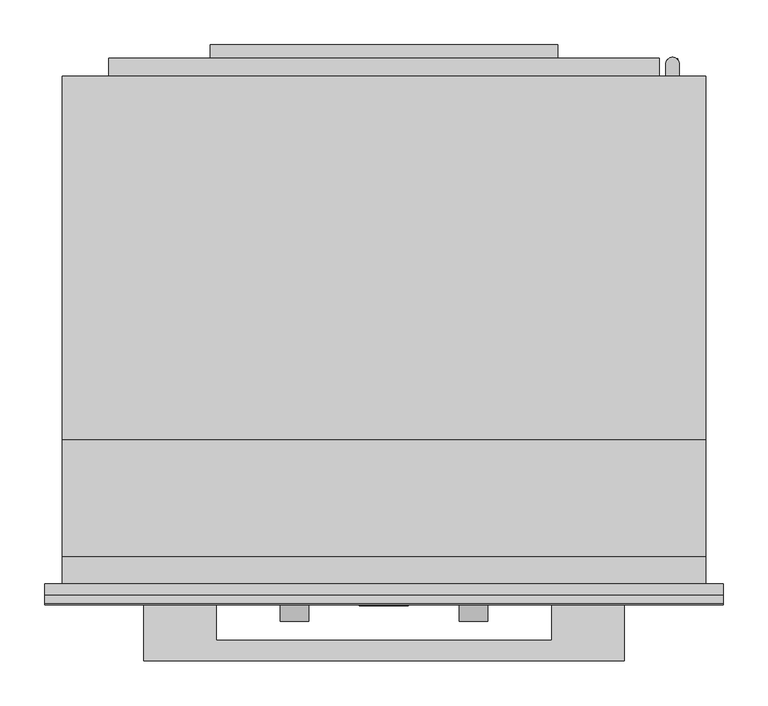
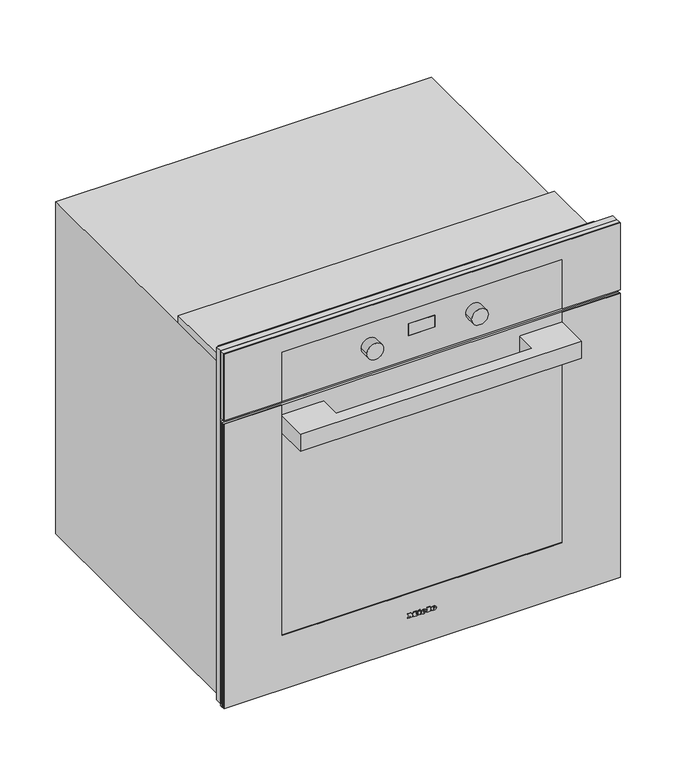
"""IFC4 building model written with IfcOpenShell, lengths in millimetres: proxy geometry, 11805320_USA_H2780BP_EDST-CLST : 22278045_USA_11805320_H2780BP_EDST-CLST."""

import ifcopenshell
import ifcopenshell.guid

model = None  # the IFC model being written
_history = None  # IfcOwnerHistory: only IFC2X3 demands one
_inside = {}  # id of a spatial element -> (the spatial element, [elements in it])
_under = {}  # id of a project, library or spatial element -> (it, [spatial elements below it])
_declared = {}  # id of a project -> (the project, [libraries it declares])
_typed = {}  # id of a type object -> (the type object, [elements of that type])
_made_of = {}  # id of a material, layer set ... -> (it, [elements and type objects made of it])


def new_model(schema):
    """Start an empty IFC model of exactly this schema.

    Asked for "IFC4X3", IfcOpenShell would pick the latest addendum, in which some entities
    have other attributes; the version numbers below select the first issue.
    IFC2X3 requires an IfcOwnerHistory on every rooted entity: one is made here for all.
    """
    global model, _history
    if schema == "IFC4X3":
        model = ifcopenshell.file(schema_version=(4, 3, 0, 0))
    else:
        model = ifcopenshell.file(schema=schema)
    _inside.clear()
    _under.clear()
    _declared.clear()
    _typed.clear()
    _made_of.clear()
    _history = None
    if model.schema == "IFC2X3":
        org = make("IfcOrganization", Name="unknown")
        user = make(
            "IfcPersonAndOrganization",
            ThePerson=make("IfcPerson", FamilyName="unknown"),
            TheOrganization=org,
        )
        app = make(
            "IfcApplication",
            ApplicationDeveloper=org,
            Version="unknown",
            ApplicationFullName="unknown",
            ApplicationIdentifier="unknown",
        )
        _history = make(
            "IfcOwnerHistory",
            OwningUser=user,
            OwningApplication=app,
            ChangeAction="ADDED",
            CreationDate=0,
        )
    return model


def make(cls, **values):
    """One entity of the class cls with the attributes given. An attribute that is None is left unset."""
    return model.create_entity(
        cls, **{name: value for name, value in values.items() if value is not None}
    )


def rooted(cls, **values):
    """An entity with a GlobalId (a new one), such as an element, a storey or a relation."""
    return make(cls, GlobalId=ifcopenshell.guid.new(), OwnerHistory=_history, **values)


def si_unit(unit_type, name, prefix=None):
    """IfcSIUnit, for example si_unit("LENGTHUNIT", "METRE", prefix="MILLI")."""
    return make("IfcSIUnit", UnitType=unit_type, Prefix=prefix, Name=name)


def assignment(units):
    """IfcUnitAssignment: the units of a project."""
    return None if units is None else make("IfcUnitAssignment", Units=units)


def point(xyz):
    """IfcCartesianPoint."""
    return None if xyz is None else make("IfcCartesianPoint", Coordinates=xyz)


def direction(xyz):
    """IfcDirection."""
    return None if xyz is None else make("IfcDirection", DirectionRatios=xyz)


def frame(location, z_axis=None, x_axis=None):
    """IfcAxis2Placement3D, a coordinate frame: its origin and axes. An axis left out is left unset."""
    return make(
        "IfcAxis2Placement3D",
        Location=point(location),
        Axis=direction(z_axis),
        RefDirection=direction(x_axis),
    )


def frame_2d(location, x_axis=None):
    """IfcAxis2Placement2D, a coordinate frame in the plane: its origin and x axis."""
    return make(
        "IfcAxis2Placement2D", Location=point(location), RefDirection=direction(x_axis)
    )


def origin():
    """The frame at (0, 0, 0) with its axes left unset."""
    return frame((0.0, 0.0, 0.0))


def place(relative_to, where):
    """IfcLocalPlacement: puts the frame where relative to a parent placement (None: the world)."""
    return make(
        "IfcLocalPlacement", PlacementRelTo=relative_to, RelativePlacement=where
    )


def context(
    kind, dimensions, precision=None, world=None, true_north=None, identifier=None
):
    """IfcGeometricRepresentationContext, for example the 3D "Model" context."""
    return make(
        "IfcGeometricRepresentationContext",
        ContextIdentifier=identifier,
        ContextType=kind,
        CoordinateSpaceDimension=dimensions,
        Precision=precision,
        WorldCoordinateSystem=world,
        TrueNorth=true_north,
    )


def project(units=None, contexts=None):
    """IfcProject with its units and contexts."""
    return rooted(
        "IfcProject",
        Name="project",
        RepresentationContexts=contexts,
        UnitsInContext=assignment(units),
    )


def spatial(cls, under=None, at=None, **own):
    """A site, building, storey or space (cls), placed at a placement, below another one or the project."""
    s = rooted(cls, ObjectPlacement=at, **own)
    if under is not None:
        _under.setdefault(under.id(), (under, []))[1].append(s)
    return s


def polyline(points):
    """IfcPolyline through the points."""
    return make("IfcPolyline", Points=[point(p) for p in points])


def circle_curve(where, radius):
    """IfcCircle in the frame where."""
    return make("IfcCircle", Position=where, Radius=radius)


def ellipse_curve(where, semi_axis1, semi_axis2):
    """IfcEllipse in the frame where."""
    return make(
        "IfcEllipse", Position=where, SemiAxis1=semi_axis1, SemiAxis2=semi_axis2
    )


def trimmed(basis, trim1, trim2, sense, master):
    """IfcTrimmedCurve: the piece of a basis curve between two trims."""
    return make(
        "IfcTrimmedCurve",
        BasisCurve=basis,
        Trim1=trim1,
        Trim2=trim2,
        SenseAgreement=sense,
        MasterRepresentation=master,
    )


def segment(curve, same_sense, transition):
    """IfcCompositeCurveSegment."""
    return make(
        "IfcCompositeCurveSegment",
        Transition=transition,
        SameSense=same_sense,
        ParentCurve=curve,
    )


def composite_curve(segments, self_intersect=None):
    """IfcCompositeCurve: segments joined end to end."""
    return make("IfcCompositeCurve", Segments=segments, SelfIntersect=self_intersect)


def outline(outer, holes=None, kind="AREA"):
    """IfcArbitraryClosedProfileDef: a profile drawn as a closed curve; with holes, ...WithVoids."""
    if holes is None:
        return make("IfcArbitraryClosedProfileDef", ProfileType=kind, OuterCurve=outer)
    return make(
        "IfcArbitraryProfileDefWithVoids",
        ProfileType=kind,
        OuterCurve=outer,
        InnerCurves=holes,
    )


def extrude(swept, where, along, depth):
    """IfcExtrudedAreaSolid: the profile swept, set in the frame where, extruded along a direction by depth."""
    return make(
        "IfcExtrudedAreaSolid",
        SweptArea=swept,
        Position=where,
        ExtrudedDirection=direction(along),
        Depth=depth,
    )


def faces_of(points, faces, orient=None, outer=None):
    """IfcFace entities. A face is a list of loops; a loop is a list of indices into points, from 0.

    orient and outer hold one flag for each loop. By default every Orientation is true, the
    first loop of a face is its IfcFaceOuterBound and the others are IfcFaceBound.
    """
    made = []
    for i, loops in enumerate(faces):
        bounds = []
        for j, loop in enumerate(loops):
            is_outer = j == 0 if outer is None else outer[i][j]
            bounds.append(
                make(
                    "IfcFaceOuterBound" if is_outer else "IfcFaceBound",
                    Bound=make("IfcPolyLoop", Polygon=[points[k] for k in loop]),
                    Orientation=True if orient is None else orient[i][j],
                )
            )
        made.append(make("IfcFace", Bounds=bounds))
    return made


def faceted_brep(points, faces, orient=None, outer=None, voids=None):
    """IfcFacetedBrep: a solid bounded by flat faces; with voids (closed shells), ...WithVoids."""
    shared = [point(p) for p in points]
    hull = make("IfcClosedShell", CfsFaces=faces_of(shared, faces, orient, outer))
    if voids is None:
        return make("IfcFacetedBrep", Outer=hull)
    return make(
        "IfcFacetedBrepWithVoids",
        Outer=hull,
        Voids=[
            make(cls, CfsFaces=faces_of(shared, fs, o, b)) for cls, fs, o, b in voids
        ],
    )


def shape(context_of_items, identifier, shape_type, items):
    """IfcShapeRepresentation: the items that make up one representation, for example the "Body"."""
    return make(
        "IfcShapeRepresentation",
        ContextOfItems=context_of_items,
        RepresentationIdentifier=identifier,
        RepresentationType=shape_type,
        Items=items,
    )


def source(mapping_origin, context_of_items, identifier, shape_type, items):
    """IfcRepresentationMap: a shape defined once, which mapped items show again and again."""
    return make(
        "IfcRepresentationMap",
        MappingOrigin=mapping_origin,
        MappedRepresentation=shape(context_of_items, identifier, shape_type, items),
    )


def transform(
    local_origin,
    x_axis=None,
    y_axis=None,
    z_axis=None,
    scale=None,
    scale2=None,
    scale3=None,
    uniform=True,
):
    """IfcCartesianTransformationOperator3D, or its non-uniform kind. x_axis, y_axis, z_axis: its Axis1, 2, 3."""
    if uniform:
        return make(
            "IfcCartesianTransformationOperator3D",
            Axis1=direction(x_axis),
            Axis2=direction(y_axis),
            LocalOrigin=point(local_origin),
            Scale=scale,
            Axis3=direction(z_axis),
        )
    return make(
        "IfcCartesianTransformationOperator3DnonUniform",
        Axis1=direction(x_axis),
        Axis2=direction(y_axis),
        LocalOrigin=point(local_origin),
        Scale=scale,
        Axis3=direction(z_axis),
        Scale2=scale2,
        Scale3=scale3,
    )


def mapped(mapping_source, mapping_target):
    """IfcMappedItem: shows the shape of a source again, moved by a transform."""
    return make(
        "IfcMappedItem", MappingSource=mapping_source, MappingTarget=mapping_target
    )


def made_of(thing, what):
    """Note that an element or type object is made of a material, layer set ...; save() writes the relation."""
    if what is not None:
        _made_of.setdefault(what.id(), (what, []))[1].append(thing)
    return thing


def element(
    cls,
    number,
    at=None,
    inside=None,
    cuts=None,
    type_object=None,
    material=None,
    context=None,
    identifier="Body",
    shape_type=None,
    held_by="IfcProductDefinitionShape",
    body=None,
    shapes=None,
    **own,
):
    """One element of the class cls, such as IfcWall. Its Tag is "e" and its number.

    at: its placement. inside: the storey or other place that contains it. cuts: it is an
    opening in that element (IfcRelVoidsElement). A single representation is given by context,
    identifier, shape_type and body (its items); several are given by shapes. held_by: the class
    of the entity that holds the representations. save() writes the other relations.
    """
    e = rooted(cls, Tag="e%d" % number, ObjectPlacement=at, **own)
    if body is not None:
        shapes = [shape(context, identifier, shape_type, body)]
    if shapes is not None:
        e.Representation = make(held_by, Representations=shapes)
    if inside is not None:
        _inside.setdefault(inside.id(), (inside, []))[1].append(e)
    if cuts is not None:
        rooted(
            "IfcRelVoidsElement", RelatingBuildingElement=cuts, RelatedOpeningElement=e
        )
    if type_object is not None:
        _typed.setdefault(type_object.id(), (type_object, []))[1].append(e)
    return made_of(e, material)


def aggregate(whole, parts):
    """IfcRelAggregates: a whole, such as a stair, and the parts it consists of."""
    return rooted("IfcRelAggregates", RelatingObject=whole, RelatedObjects=parts)


def save(model, path):
    """Write the relations noted so far, then the file.

    IfcRelAggregates (storeys below a building ...), IfcRelContainedInSpatialStructure (elements
    in a storey), IfcRelDefinesByType, IfcRelAssociatesMaterial and IfcRelDeclares: one each for
    every whole, place, type object, material and project.
    """
    for whole, parts in _under.values():
        aggregate(whole, parts)
    for where, things in _inside.values():
        rooted(
            "IfcRelContainedInSpatialStructure",
            RelatedElements=things,
            RelatingStructure=where,
        )
    for kind, things in _typed.values():
        rooted("IfcRelDefinesByType", RelatedObjects=things, RelatingType=kind)
    for what, things in _made_of.values():
        rooted("IfcRelAssociatesMaterial", RelatedObjects=things, RelatingMaterial=what)
    for by, libraries in _declared.values():
        rooted("IfcRelDeclares", RelatingContext=by, RelatedDefinitions=libraries)
    model.write(path)


def plane_surface(at):
    """IfcPlane: the flat surface through the origin of the frame at, square to its z axis."""
    return make("IfcPlane", Position=at)


def cylinder_surface(at, radius):
    """IfcCylindricalSurface: all points at the distance radius from the z axis of the frame at."""
    return make("IfcCylindricalSurface", Position=at, Radius=radius)


def revolved_surface(curve, axis_point, axis_direction):
    """IfcSurfaceOfRevolution: the curve turned about the line through axis_point along axis_direction."""
    return make(
        "IfcSurfaceOfRevolution",
        SweptCurve=make("IfcArbitraryOpenProfileDef", ProfileType="CURVE", Curve=curve),
        AxisPosition=make("IfcAxis1Placement", Location=point(axis_point), Axis=direction(axis_direction)),
    )


def extruded_surface(curve, direction_of_extrusion, depth):
    """IfcSurfaceOfLinearExtrusion: the curve pushed along a direction by depth."""
    return make(
        "IfcSurfaceOfLinearExtrusion",
        SweptCurve=make("IfcArbitraryOpenProfileDef", ProfileType="CURVE", Curve=curve),
        ExtrudedDirection=direction(direction_of_extrusion),
        Depth=depth,
    )


def advanced_brep(points, edges, surfaces, faces):
    """IfcAdvancedBrep: a solid bounded by faces that lie on surfaces and meet in shared edges.

    An edge is (start, end): straight between two places in points (the first is 0);
    or (start, end, curve); or (start, end, curve, False) where it runs against its curve.
    A face is (place in surfaces, loops), or (place, loops, False) where it looks against
    its surface's normal. A loop lists edges by number (the first is 1), with a minus sign
    where the edge is run from its end to its start. The first loop is the outer one.
    """
    corners = [point(p) for p in points]
    vertices = [make("IfcVertexPoint", VertexGeometry=c) for c in corners]
    made = []
    for start, end, *more in edges:
        made.append(
            make(
                "IfcEdgeCurve",
                EdgeStart=vertices[start],
                EdgeEnd=vertices[end],
                EdgeGeometry=more[0] if more else make("IfcPolyline", Points=[corners[start], corners[end]]),
                SameSense=more[1] if len(more) > 1 else True,
            )
        )
    hull = []
    for where, loops, *sense in faces:
        bounds = []
        for j, loop in enumerate(loops):
            ring = [make("IfcOrientedEdge", EdgeElement=made[abs(k) - 1], Orientation=k > 0) for k in loop]
            bounds.append(
                make(
                    "IfcFaceOuterBound" if j == 0 else "IfcFaceBound",
                    Bound=make("IfcEdgeLoop", EdgeList=ring),
                    Orientation=True,
                )
            )
        hull.append(make("IfcAdvancedFace", Bounds=bounds, FaceSurface=surfaces[where], SameSense=sense[0] if sense else True))
    return make("IfcAdvancedBrep", Outer=make("IfcClosedShell", CfsFaces=hull))


def specialty_equipment_66130fa6(model_context):
    return source(origin(), model_context, "Body", "SolidModel", [
        advanced_brep(
        [(21.28, -24.3, 73.133), (21.28, -24.3, 74.042), (27.301, -24.3, 74.042), (16.825, -24.3, 74.042), (19.3, -24.3, 71.0), (27.148, -24.3, 73.133), (24.43, -24.3, 73.133), (22.288, -24.3, 72.125), (21.28, -24.3, 75.194), (21.28, -24.3, 76.175), (22.819, -24.3, 76.175), (22.819, -24.3, 75.194), (21.28, -23.3, 73.133), (22.288, -23.3, 72.125), (24.43, -23.3, 73.133), (27.148, -23.3, 73.133), (19.3, -23.3, 71.0), (16.825, -23.3, 74.042), (27.301, -23.3, 74.042), (21.28, -23.3, 74.042), (21.28, -23.3, 75.194), (22.819, -23.3, 75.194), (22.819, -23.3, 76.175), (21.28, -23.3, 76.175)],
        [
            (0, 1),
            (1, 2),
            (2, 3, ellipse_curve(frame((22.063, -24.3, 74.042), z_axis=(0.0, -1.0, 0.0), x_axis=(-1.0, 0.0, 0.0)), 5.238, 4.329)),
            (3, 4, circle_curve(frame((20.3080491, -24.3, 74.348), z_axis=(0.0, -1.0, 0.0), x_axis=(0.0, 0.0, -1.0)), 3.4964649)),
            (4, 5, circle_curve(frame((21.9581428, -24.3, 76.724), z_axis=(0.0, -1.0, 0.0), x_axis=(0.0, 0.0, -1.0)), 6.3110933)),
            (5, 6),
            (6, 7, circle_curve(frame((22.7279412, -24.3, 73.97), z_axis=(0.0, 1.0, 0.0), x_axis=(0.0, 0.0, -1.0)), 1.896727)),
            (7, 0, circle_curve(frame((22.288, -24.3, 73.133), z_axis=(0.0, 1.0, 0.0), x_axis=(0.0, 0.0, -1.0)), 1.008)),
            (8, 9),
            (9, 10, circle_curve(frame((22.0495, -24.3, 76.175), z_axis=(0.0, 1.0, 0.0), x_axis=(0.0, 0.0, -1.0)), 0.7695)),
            (10, 11),
            (11, 8),
            (12, 13, circle_curve(frame((22.288, -23.3, 73.133), z_axis=(0.0, -1.0, 0.0), x_axis=(0.0, 0.0, -1.0)), 1.008)),
            (13, 14, circle_curve(frame((22.7279412, -23.3, 73.97), z_axis=(0.0, -1.0, 0.0), x_axis=(0.0, 0.0, -1.0)), 1.896727)),
            (14, 15),
            (15, 16, circle_curve(frame((21.9581428, -23.3, 76.724), z_axis=(0.0, 1.0, 0.0), x_axis=(0.0, 0.0, -1.0)), 6.3110933)),
            (16, 17, circle_curve(frame((20.3080491, -23.3, 74.348), z_axis=(0.0, 1.0, 0.0), x_axis=(0.0, 0.0, -1.0)), 3.4964649)),
            (17, 18, ellipse_curve(frame((22.063, -23.3, 74.042), z_axis=(0.0, 1.0, 0.0), x_axis=(-1.0, 0.0, 0.0)), 5.238, 4.329)),
            (18, 19),
            (19, 12),
            (20, 21),
            (21, 22),
            (22, 23, circle_curve(frame((22.0495, -23.3, 76.175), z_axis=(0.0, -1.0, 0.0), x_axis=(0.0, 0.0, -1.0)), 0.7695)),
            (23, 20),
            (0, 12),
            (19, 1),
            (18, 2),
            (5, 15),
            (14, 6),
            (17, 3),
            (13, 7),
            (16, 4),
            (8, 20),
            (23, 9),
            (22, 10),
            (21, 11),
        ],
        [
            plane_surface(frame((21.28, -24.3, 74.042), z_axis=(0.0, -1.0, 0.0), x_axis=(0.0, 0.0, 1.0))),
            plane_surface(frame((21.28, -23.3, 74.042), z_axis=(0.0, 1.0, 0.0), x_axis=(0.0, 0.0, -1.0))),
            plane_surface(frame((21.28, -24.3, 73.133), z_axis=(1.0, 0.0, 0.0), x_axis=(0.0, 1.0, 0.0))),
            plane_surface(frame((21.28, -24.3, 74.042), z_axis=(0.0, 0.0, -1.0), x_axis=(0.0, 1.0, 0.0))),
            plane_surface(frame((27.148, -24.3, 73.133), z_axis=(0.0, 0.0, 1.0), x_axis=(0.0, 1.0, 0.0))),
            extruded_surface(trimmed(ellipse_curve(frame((22.063, -22.3, 74.042), z_axis=(0.0, -1.0, 0.0), x_axis=(-1.0, 0.0, 0.0)), 5.238, 4.329), [point((27.301, -22.3, 74.042))], [point((16.825, -22.3, 74.042))], True, "CARTESIAN"), (0.0, -1.0, 0.0), 1.0),
            revolved_surface(polyline([(22.7279412, -23.3, 72.073273), (22.7279412, -24.3, 72.073273)]), (22.7279412, -23.3, 73.97), (0.0, 1.0, 0.0)),
            revolved_surface(polyline([(22.288, -23.3, 72.125), (22.288, -24.3, 72.125)]), (22.288, -23.3, 73.133), (0.0, 1.0, 0.0)),
            cylinder_surface(frame((20.3080491, -23.3, 74.348), z_axis=(0.0, -1.0, 0.0), x_axis=(0.0, 0.0, -1.0)), 3.4964649),
            cylinder_surface(frame((21.9581428, -23.3, 76.724), z_axis=(0.0, -1.0, 0.0), x_axis=(0.0, 0.0, -1.0)), 6.3110933),
            plane_surface(frame((21.28, -24.3, 75.194), z_axis=(1.0, 0.0, 0.0), x_axis=(0.0, 1.0, 0.0))),
            revolved_surface(polyline([(22.0495, -23.3, 75.4055), (22.0495, -24.3, 75.4055)]), (22.0495, -23.3, 76.175), (0.0, 1.0, 0.0)),
            plane_surface(frame((22.819, -24.3, 76.175), z_axis=(-1.0, 0.0, 0.0), x_axis=(0.0, 1.0, 0.0))),
            plane_surface(frame((22.819, -24.3, 75.194), z_axis=(0.0, 0.0, 1.0), x_axis=(0.0, 1.0, 0.0))),
        ],
        [
            (0, [[1, 2, 3, 4, 5, 6, 7, 8], [9, 10, 11, 12]]),
            (1, [[13, 14, 15, 16, 17, 18, 19, 20], [21, 22, 23, 24]]),
            (2, [[-1, 25, -20, 26]]),
            (3, [[-2, -26, -19, 27]]),
            (4, [[-6, 28, -15, 29]]),
            (5, [[-3, -27, -18, 30]]),
            (6, [[-7, -29, -14, 31]]),
            (7, [[-8, -31, -13, -25]]),
            (8, [[-4, -30, -17, 32]]),
            (9, [[-5, -32, -16, -28]]),
            (10, [[-9, 33, -24, 34]]),
            (11, [[-10, -34, -23, 35]]),
            (12, [[-11, -35, -22, 36]]),
            (13, [[-12, -36, -21, -33]]),
        ],
    ),
        advanced_brep(
        [(2.497, -24.3, 73.133), (2.497, -24.3, 74.042), (8.518, -24.3, 74.042), (-1.958, -24.3, 74.042), (0.517, -24.3, 71.0), (8.365, -24.3, 73.133), (5.647, -24.3, 73.133), (3.505, -24.3, 72.125), (2.497, -24.3, 75.194), (2.497, -24.3, 76.175), (4.036, -24.3, 76.175), (4.036, -24.3, 75.194), (2.497, -23.3, 73.133), (3.505, -23.3, 72.125), (5.647, -23.3, 73.133), (8.365, -23.3, 73.133), (0.517, -23.3, 71.0), (-1.958, -23.3, 74.042), (8.518, -23.3, 74.042), (2.497, -23.3, 74.042), (2.497, -23.3, 75.194), (4.036, -23.3, 75.194), (4.036, -23.3, 76.175), (2.497, -23.3, 76.175)],
        [
            (0, 1),
            (1, 2),
            (2, 3, ellipse_curve(frame((3.28, -24.3, 74.042), z_axis=(0.0, -1.0, 0.0), x_axis=(-1.0, 0.0, 0.0)), 5.238, 4.329)),
            (3, 4, circle_curve(frame((1.5250491, -24.3, 74.348), z_axis=(0.0, -1.0, 0.0), x_axis=(0.0, 0.0, -1.0)), 3.4964649)),
            (4, 5, circle_curve(frame((3.1751428, -24.3, 76.724), z_axis=(0.0, -1.0, 0.0), x_axis=(0.0, 0.0, -1.0)), 6.3110933)),
            (5, 6),
            (6, 7, circle_curve(frame((3.9449412, -24.3, 73.97), z_axis=(0.0, 1.0, 0.0), x_axis=(0.0, 0.0, -1.0)), 1.896727)),
            (7, 0, circle_curve(frame((3.505, -24.3, 73.133), z_axis=(0.0, 1.0, 0.0), x_axis=(0.0, 0.0, -1.0)), 1.008)),
            (8, 9),
            (9, 10, circle_curve(frame((3.2665, -24.3, 76.175), z_axis=(0.0, 1.0, 0.0), x_axis=(0.0, 0.0, -1.0)), 0.7695)),
            (10, 11),
            (11, 8),
            (12, 13, circle_curve(frame((3.505, -23.3, 73.133), z_axis=(0.0, -1.0, 0.0), x_axis=(0.0, 0.0, -1.0)), 1.008)),
            (13, 14, circle_curve(frame((3.9449412, -23.3, 73.97), z_axis=(0.0, -1.0, 0.0), x_axis=(0.0, 0.0, -1.0)), 1.896727)),
            (14, 15),
            (15, 16, circle_curve(frame((3.1751428, -23.3, 76.724), z_axis=(0.0, 1.0, 0.0), x_axis=(0.0, 0.0, -1.0)), 6.3110933)),
            (16, 17, circle_curve(frame((1.5250491, -23.3, 74.348), z_axis=(0.0, 1.0, 0.0), x_axis=(0.0, 0.0, -1.0)), 3.4964649)),
            (17, 18, ellipse_curve(frame((3.28, -23.3, 74.042), z_axis=(0.0, 1.0, 0.0), x_axis=(-1.0, 0.0, 0.0)), 5.238, 4.329)),
            (18, 19),
            (19, 12),
            (20, 21),
            (21, 22),
            (22, 23, circle_curve(frame((3.2665, -23.3, 76.175), z_axis=(0.0, -1.0, 0.0), x_axis=(0.0, 0.0, -1.0)), 0.7695)),
            (23, 20),
            (0, 12),
            (19, 1),
            (18, 2),
            (5, 15),
            (14, 6),
            (17, 3),
            (13, 7),
            (16, 4),
            (8, 20),
            (23, 9),
            (22, 10),
            (21, 11),
        ],
        [
            plane_surface(frame((2.497, -24.3, 74.042), z_axis=(0.0, -1.0, 0.0), x_axis=(0.0, 0.0, 1.0))),
            plane_surface(frame((2.497, -23.3, 74.042), z_axis=(0.0, 1.0, 0.0), x_axis=(0.0, 0.0, -1.0))),
            plane_surface(frame((2.497, -24.3, 73.133), z_axis=(1.0, 0.0, 0.0), x_axis=(0.0, 1.0, 0.0))),
            plane_surface(frame((2.497, -24.3, 74.042), z_axis=(0.0, 0.0, -1.0), x_axis=(0.0, 1.0, 0.0))),
            plane_surface(frame((8.365, -24.3, 73.133), z_axis=(0.0, 0.0, 1.0), x_axis=(0.0, 1.0, 0.0))),
            extruded_surface(trimmed(ellipse_curve(frame((3.28, -22.3, 74.042), z_axis=(0.0, -1.0, 0.0), x_axis=(-1.0, 0.0, 0.0)), 5.238, 4.329), [point((8.518, -22.3, 74.042))], [point((-1.958, -22.3, 74.042))], True, "CARTESIAN"), (0.0, -1.0, 0.0), 1.0),
            revolved_surface(polyline([(3.9449412, -23.3, 72.073273), (3.9449412, -24.3, 72.073273)]), (3.9449412, -23.3, 73.97), (0.0, 1.0, 0.0)),
            revolved_surface(polyline([(3.505, -23.3, 72.125), (3.505, -24.3, 72.125)]), (3.505, -23.3, 73.133), (0.0, 1.0, 0.0)),
            cylinder_surface(frame((1.5250491, -23.3, 74.348), z_axis=(0.0, -1.0, 0.0), x_axis=(0.0, 0.0, -1.0)), 3.4964649),
            cylinder_surface(frame((3.1751428, -23.3, 76.724), z_axis=(0.0, -1.0, 0.0), x_axis=(0.0, 0.0, -1.0)), 6.3110933),
            plane_surface(frame((2.497, -24.3, 75.194), z_axis=(1.0, 0.0, 0.0), x_axis=(0.0, 1.0, 0.0))),
            revolved_surface(polyline([(3.2665, -23.3, 75.4055), (3.2665, -24.3, 75.4055)]), (3.2665, -23.3, 76.175), (0.0, 1.0, 0.0)),
            plane_surface(frame((4.036, -24.3, 76.175), z_axis=(-1.0, 0.0, 0.0), x_axis=(0.0, 1.0, 0.0))),
            plane_surface(frame((4.036, -24.3, 75.194), z_axis=(0.0, 0.0, 1.0), x_axis=(0.0, 1.0, 0.0))),
        ],
        [
            (0, [[1, 2, 3, 4, 5, 6, 7, 8], [9, 10, 11, 12]]),
            (1, [[13, 14, 15, 16, 17, 18, 19, 20], [21, 22, 23, 24]]),
            (2, [[-1, 25, -20, 26]]),
            (3, [[-2, -26, -19, 27]]),
            (4, [[-6, 28, -15, 29]]),
            (5, [[-3, -27, -18, 30]]),
            (6, [[-7, -29, -14, 31]]),
            (7, [[-8, -31, -13, -25]]),
            (8, [[-4, -30, -17, 32]]),
            (9, [[-5, -32, -16, -28]]),
            (10, [[-9, 33, -24, 34]]),
            (11, [[-10, -34, -23, 35]]),
            (12, [[-11, -35, -22, 36]]),
            (13, [[-12, -36, -21, -33]]),
        ],
    ),
        extrude(outline(polyline([(79.469, -7.34), (78.011, -6.656), (79.433, -3.605), (80.891, -4.28), (79.469, -7.34)])), frame((0.0, -24.3, 0.0), z_axis=(0.0, 1.0, 0.0), x_axis=(0.0, 0.0, 1.0)), (0.0, 0.0, 1.0), 1.0),
        extrude(outline(polyline([(77.813, -9.563), (76.202, -9.563), (76.202, -8.492), (72.512, -8.492), (72.512, -9.563), (71.0, -9.563), (71.0, -2.462), (72.512, -2.462), (72.512, -3.506), (77.813, -3.506), (77.813, -9.563)])), frame((0.0, -24.3, 0.0), z_axis=(0.0, 1.0, 0.0), x_axis=(0.0, 0.0, 1.0)), (0.0, 0.0, 1.0), 1.0),
        extrude(outline(polyline([(78.533, 9.022), (78.533, 10.102), (72.512, 10.102), (72.512, 9.022), (71.0, 9.022), (71.0, 16.321), (72.512, 16.321), (72.512, 15.214), (80.0, 15.214), (80.0, 9.022), (78.533, 9.022)])), frame((0.0, -24.3, 0.0), z_axis=(0.0, 1.0, 0.0), x_axis=(0.0, 0.0, 1.0)), (0.0, 0.0, 1.0), 1.0),
        extrude(outline(polyline([(78.533, -27.5), (78.533, -26.411), (72.512, -26.411), (72.512, -27.5), (71.0, -27.5), (71.0, -23.54), (72.512, -23.54), (72.512, -24.62), (76.3341247, -24.62), (71.0, -20.597), (76.4402223, -16.556), (72.512, -16.556), (72.512, -17.663), (71.0, -17.663), (71.0, -10.481), (72.512, -10.481), (72.512, -11.624), (78.533, -11.624), (78.533, -10.481), (80.0, -10.481), (80.0, -15.962), (76.625, -18.59), (80.0, -21.227), (80.0, -27.5), (78.533, -27.5)])), frame((0.0, -24.3, 0.0), z_axis=(0.0, 1.0, 0.0), x_axis=(0.0, 0.0, 1.0)), (0.0, 0.0, 1.0), 1.0),
        extrude(outline(polyline([(585.0, -268.5), (585.0, -378.5), (11.0, -378.5), (11.0, 378.5), (585.0, 378.5), (585.0, 268.5), (120.0, 268.5), (120.0, -268.5), (585.0, -268.5)])), frame((0.0, -23.3, 0.0), z_axis=(0.0, 1.0, 0.0), x_axis=(0.0, 0.0, 1.0)), (0.0, 0.0, 1.0), 1.3),
        extrude(outline(polyline([(378.5, -22.0), (-378.5, -22.0), (-378.5, -18.0), (378.5, -18.0), (378.5, -22.0)])), frame((0.0, 0.0, 11.0), z_axis=(0.0, 0.0, 1.0), x_axis=(1.0, 0.0, 0.0)), (0.0, 0.0, 1.0), 574.0),
        extrude(outline(polyline([(-187.0, -22.0), (-187.0, -63.0), (187.0, -63.0), (187.0, -22.0), (268.0, -22.0), (268.0, -86.0), (-268.0, -86.0), (-268.0, -22.0), (-187.0, -22.0)])), frame((0.0, 0.0, 530.0), z_axis=(0.0, 0.0, 1.0), x_axis=(1.0, 0.0, 0.0)), (0.0, 0.0, 1.0), 35.0),
        extrude(outline(polyline([(378.5, -18.0), (-378.5, -18.0), (-378.5, -13.0), (378.5, -13.0), (378.5, -18.0)])), frame((0.0, 0.0, 11.0), z_axis=(0.0, 0.0, 1.0), x_axis=(1.0, 0.0, 0.0)), (0.0, 0.0, 1.0), 574.0),
        extrude(outline(polyline([(-250.5, -18.0), (250.5, -18.0), (250.5, -22.0), (-250.5, -22.0), (-250.5, -18.0)])), frame((0.0, 0.0, 150.0), z_axis=(0.0, 0.0, 1.0), x_axis=(1.0, 0.0, 0.0)), (0.0, 0.0, 1.0), 344.0),
        extrude(outline(polyline([(727.0, -378.5), (592.0, -378.5), (592.0, -268.5), (692.0, -268.5), (692.0, 268.5), (592.0, 268.5), (592.0, 378.5), (727.0, 378.5), (727.0, -378.5)])), frame((0.0, -23.3, 0.0), z_axis=(0.0, 1.0, 0.0), x_axis=(0.0, 0.0, 1.0)), (0.0, 0.0, 1.0), 1.3),
        extrude(outline(polyline([(-25.25, -21.0), (25.25, -21.0), (25.25, -22.0), (-25.25, -22.0), (-25.25, -21.0)])), frame((0.0, 0.0, 640.0), z_axis=(0.0, 0.0, 1.0), x_axis=(1.0, 0.0, 0.0)), (0.0, 0.0, 1.0), 23.5),
        faceted_brep([(378.5, -22.0, 727.0), (-378.5, -22.0, 727.0), (-378.5, -22.0, 592.0), (378.5, -22.0, 592.0), (25.25, -22.0, 663.5), (25.25, -22.0, 640.0), (-25.25, -22.0, 640.0), (-25.25, -22.0, 663.5), (378.5, -13.0, 727.0), (378.5, -13.0, 592.0), (-378.5, -13.0, 592.0), (-378.5, -13.0, 727.0), (25.25, -21.0, 663.5), (-25.25, -21.0, 663.5), (-25.25, -21.0, 640.0), (25.25, -21.0, 640.0)], [[[0, 1, 2, 3], [4, 5, 6, 7]], [[8, 9, 10, 11]], [[1, 0, 8, 11]], [[2, 1, 11, 10]], [[3, 2, 10, 9]], [[0, 3, 9, 8]], [[12, 13, 14, 15]], [[12, 15, 5, 4]], [[15, 14, 6, 5]], [[14, 13, 7, 6]], [[13, 12, 4, 7]]]),
        extrude(outline(composite_curve([segment(trimmed(circle_curve(frame_2d((646.0, -100.0)), 16.0), [point((646.0, -116.0))], [point((646.0, -84.0))], False, "CARTESIAN"), True, "CONTINUOUS"), segment(trimmed(circle_curve(frame_2d((646.0, -100.0)), 16.0), [point((646.0, -84.0))], [point((646.0, -116.0))], False, "CARTESIAN"), True, "CONTINUOUS")], self_intersect=False)), frame((0.0, -42.0, 0.0), z_axis=(0.0, 1.0, 0.0), x_axis=(0.0, 0.0, 1.0)), (0.0, 0.0, 1.0), 20.0),
        extrude(outline(composite_curve([segment(trimmed(circle_curve(frame_2d((646.0, 100.0)), 16.0), [point((646.0, 84.0))], [point((646.0, 116.0))], False, "CARTESIAN"), True, "CONTINUOUS"), segment(trimmed(circle_curve(frame_2d((646.0, 100.0)), 16.0), [point((646.0, 116.0))], [point((646.0, 84.0))], False, "CARTESIAN"), True, "CONTINUOUS")], self_intersect=False)), frame((0.0, -42.0, 0.0), z_axis=(0.0, 1.0, 0.0), x_axis=(0.0, 0.0, 1.0)), (0.0, 0.0, 1.0), 20.0),
        extrude(outline(polyline([(327.856335, 586.4164958), (327.856335, 576.4164958), (322.0, 576.4164958), (322.0, 577.4164958), (326.856335, 577.4164958), (326.856335, 580.9164958), (323.9061855, 580.9164958), (323.9061855, 581.9164958), (326.856335, 581.9164958), (326.856335, 585.4164958), (322.0, 585.4164958), (322.0, 586.4164958), (327.856335, 586.4164958)])), frame((0.0, 0.0, 585.0), z_axis=(0.0, 0.0, 1.0), x_axis=(1.0, 0.0, 0.0)), (0.0, 0.0, 1.0), 1.0),
        extrude(outline(polyline([(320.5, 576.4164958), (315.5, 576.4164958), (315.5, 577.4164958), (319.3952098, 577.4164958), (319.3952098, 586.4164958), (320.5, 586.4164958), (320.5, 576.4164958)])), frame((0.0, 0.0, 585.0), z_axis=(0.0, 0.0, 1.0), x_axis=(1.0, 0.0, 0.0)), (0.0, 0.0, 1.0), 1.0),
        advanced_brep(
        [(329.5, 567.0, 616.0), (314.5, 567.0, 616.0), (329.5, 580.5, 616.0), (314.5, 580.5, 616.0), (329.5, 580.5, 586.0), (314.5, 580.5, 586.0)],
        [
            (0, 1, circle_curve(frame((322.0, 567.0, 616.0), z_axis=(0.0, -1.0, 0.0), x_axis=(-1.0, 0.0, 0.0)), 7.5)),
            (1, 0, circle_curve(frame((322.0, 567.0, 616.0), z_axis=(0.0, -1.0, 0.0), x_axis=(-1.0, 0.0, 0.0)), 7.5)),
            (0, 2),
            (2, 3, ellipse_curve(frame((322.0, 580.5, 616.0), z_axis=(0.0, -0.7071067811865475, 0.7071067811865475), x_axis=(0.0, -0.7071067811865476, -0.7071067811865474)), 10.6066017, 7.5)),
            (3, 1),
            (3, 2, ellipse_curve(frame((322.0, 580.5, 616.0), z_axis=(0.0, -0.7071067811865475, 0.7071067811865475), x_axis=(0.0, -0.7071067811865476, -0.7071067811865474)), 10.6066017, 7.5)),
            (4, 5, circle_curve(frame((322.0, 580.5, 586.0), z_axis=(0.0, 0.0, -1.0), x_axis=(-1.0, 0.0, 0.0)), 7.5)),
            (5, 4, circle_curve(frame((322.0, 580.5, 586.0), z_axis=(0.0, 0.0, -1.0), x_axis=(-1.0, 0.0, 0.0)), 7.5)),
            (2, 4),
            (5, 3),
        ],
        [
            plane_surface(frame((322.0, 567.0, 616.0), z_axis=(0.0, -1.0, 0.0), x_axis=(-1.0, 0.0, 0.0))),
            cylinder_surface(frame((322.0, 567.0, 616.0), z_axis=(0.0, -1.0, 0.0), x_axis=(-1.0, 0.0, 0.0)), 7.5),
            plane_surface(frame((322.0, 580.5, 586.0), z_axis=(0.0, 0.0, -1.0), x_axis=(-1.0, 0.0, 0.0))),
            cylinder_surface(frame((322.0, 580.5, 616.0), z_axis=(0.0, 0.0, 1.0), x_axis=(-1.0, 0.0, 0.0)), 7.5),
        ],
        [
            (0, [[1, 2]]),
            (1, [[-1, 3, 4, 5]]),
            (1, [[-2, -5, 6, -3]]),
            (2, [[7, 8]]),
            (3, [[-4, 9, -8, 10]]),
            (3, [[-6, -10, -7, -9]]),
        ],
    ),
        faceted_brep([(353.5, 25.0, 593.0), (-353.5, 25.0, 593.0), (-353.5, 25.0, 15.0), (353.5, 25.0, 15.0), (-312.5, 25.0, 526.0), (312.5, 25.0, 526.0), (312.5, 25.0, 103.0), (-312.5, 25.0, 103.0), (353.5, 0.0, 593.0), (-353.5, 0.0, 593.0), (-353.5, 0.0, 15.0), (353.5, 0.0, 15.0), (359.0, 0.0, 670.0), (359.0, 0.0, 0.0), (359.0, 567.0, 0.0), (359.0, 567.0, 670.0), (-359.0, 0.0, 0.0), (-359.0, 0.0, 670.0), (-359.0, 567.0, 670.0), (-359.0, 567.0, 0.0), (-307.0, 567.0, 0.0), (-307.0, 587.0, 0.0), (307.0, 587.0, 0.0), (307.0, 567.0, 0.0), (-307.0, 587.0, 584.0), (307.0, 587.0, 584.0), (312.5, 433.0, 526.0), (-312.5, 433.0, 526.0), (-312.5, 433.0, 103.0), (312.5, 433.0, 103.0), (-307.0, 567.0, 584.0), (307.0, 567.0, 584.0)], [[[0, 1, 2, 3], [4, 5, 6, 7]], [[1, 0, 8, 9]], [[2, 1, 9, 10]], [[0, 3, 11, 8]], [[12, 13, 14, 15]], [[16, 17, 18, 19]], [[13, 16, 19, 20, 21, 22, 23, 14]], [[22, 21, 24, 25]], [[17, 12, 15, 18]], [[16, 13, 12, 17], [9, 8, 11, 10]], [[26, 27, 28, 29]], [[27, 26, 5, 4]], [[28, 27, 4, 7]], [[29, 28, 7, 6]], [[26, 29, 6, 5]], [[3, 2, 10, 11]], [[25, 24, 30, 31]], [[20, 30, 24, 21]], [[14, 23, 31, 30, 20, 19, 18, 15]], [[31, 23, 22, 25]]]),
        extrude(outline(polyline([(-194.0, 602.0), (194.0, 602.0), (194.0, 587.0), (-194.0, 587.0), (-194.0, 602.0)])), frame((0.0, 0.0, 230.0), z_axis=(0.0, 0.0, 1.0), x_axis=(1.0, 0.0, 0.0)), (0.0, 0.0, 1.0), 158.0),
        extrude(outline(polyline([(30.0, 705.0), (30.0, 686.0), (161.0, 686.0), (161.0, 670.0), (0.0, 670.0), (0.0, 705.0), (30.0, 705.0)])), frame((-359.0, 0.0, 0.0), z_axis=(1.0, 0.0, 0.0), x_axis=(0.0, 1.0, 0.0)), (0.0, 0.0, 1.0), 718.0),
        extrude(outline(polyline([(15.0, 378.5), (727.0, 378.5), (727.0, -378.5), (15.0, -378.5), (15.0, -353.5), (593.0, -353.5), (593.0, 353.5), (15.0, 353.5), (15.0, 378.5)])), frame((0.0, -13.0, 0.0), z_axis=(0.0, 1.0, 0.0), x_axis=(0.0, 0.0, 1.0)), (0.0, 0.0, 1.0), 13.0),
    ])


if __name__ == "__main__":
    model = new_model("IFC4")
    model_context = context("Model", 3, world=origin())
    ifc_project = project(units=[si_unit("LENGTHUNIT", "METRE", prefix="MILLI")], contexts=[model_context])
    site = spatial("IfcSite", under=ifc_project)
    building = spatial("IfcBuilding", under=site)
    placement = place(None, origin())
    specialty_equipment_shape = specialty_equipment_66130fa6(model_context)
    element("IfcBuildingElementProxy", 1, Name="11805320_USA_H2780BP_EDST-CLST : 22278045_USA_11805320_H2780BP_EDST-CLST", ObjectType="11805320_USA_H2780BP_EDST-CLST : 22278045_USA_11805320_H2780BP_EDST-CLST", at=placement, inside=building, context=model_context, shape_type="MappedRepresentation", body=[
        mapped(specialty_equipment_shape, transform((0.0, 0.0, 0.0), x_axis=(1.0, 0.0, 0.0), y_axis=(0.0, 1.0, 0.0), z_axis=(0.0, 0.0, 1.0))),
    ])
    save(model, "model.ifc")
